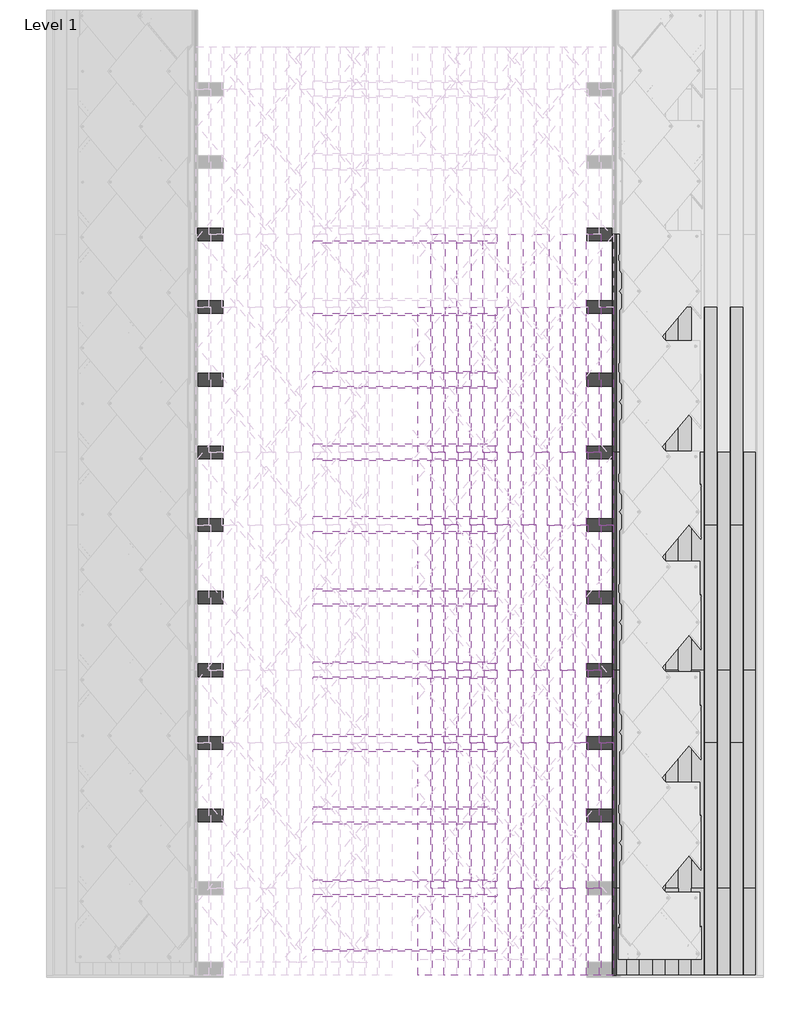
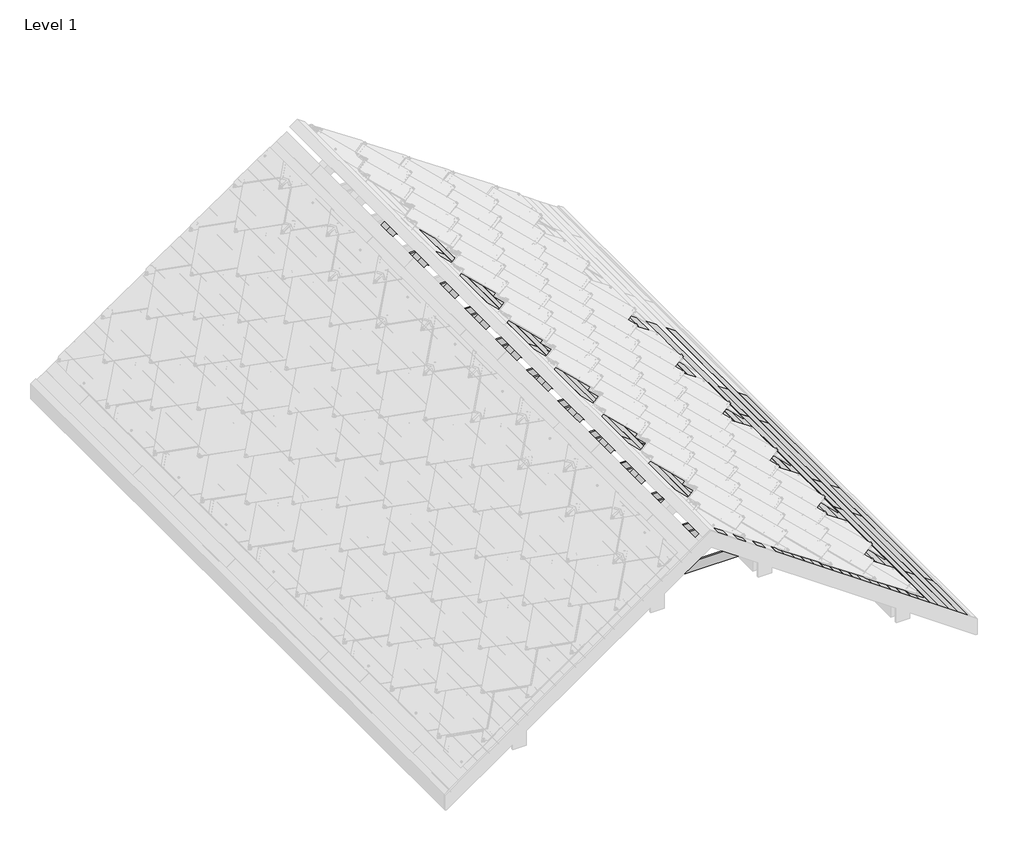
# One storey, part 2 of 6: 113 beams.
"""IFC4 building model written with IfcOpenShell, lengths in millimetres."""

import ifcopenshell
import ifcopenshell.guid

model = None  # the IFC model being written
_history = None  # IfcOwnerHistory: only IFC2X3 demands one
_inside = {}  # id of a spatial element -> (the spatial element, [elements in it])
_under = {}  # id of a project, library or spatial element -> (it, [spatial elements below it])
_declared = {}  # id of a project -> (the project, [libraries it declares])
_typed = {}  # id of a type object -> (the type object, [elements of that type])
_made_of = {}  # id of a material, layer set ... -> (it, [elements and type objects made of it])


def new_model(schema):
    """Start an empty IFC model of exactly this schema.

    Asked for "IFC4X3", IfcOpenShell would pick the latest addendum, in which some entities
    have other attributes; the version numbers below select the first issue.
    IFC2X3 requires an IfcOwnerHistory on every rooted entity: one is made here for all.
    """
    global model, _history
    if schema == "IFC4X3":
        model = ifcopenshell.file(schema_version=(4, 3, 0, 0))
    else:
        model = ifcopenshell.file(schema=schema)
    _inside.clear()
    _under.clear()
    _declared.clear()
    _typed.clear()
    _made_of.clear()
    _history = None
    if model.schema == "IFC2X3":
        org = make("IfcOrganization", Name="unknown")
        user = make(
            "IfcPersonAndOrganization",
            ThePerson=make("IfcPerson", FamilyName="unknown"),
            TheOrganization=org,
        )
        app = make(
            "IfcApplication",
            ApplicationDeveloper=org,
            Version="unknown",
            ApplicationFullName="unknown",
            ApplicationIdentifier="unknown",
        )
        _history = make(
            "IfcOwnerHistory",
            OwningUser=user,
            OwningApplication=app,
            ChangeAction="ADDED",
            CreationDate=0,
        )
    return model


def make(cls, **values):
    """One entity of the class cls with the attributes given. An attribute that is None is left unset."""
    return model.create_entity(
        cls, **{name: value for name, value in values.items() if value is not None}
    )


def rooted(cls, **values):
    """An entity with a GlobalId (a new one), such as an element, a storey or a relation."""
    return make(cls, GlobalId=ifcopenshell.guid.new(), OwnerHistory=_history, **values)


def si_unit(unit_type, name, prefix=None):
    """IfcSIUnit, for example si_unit("LENGTHUNIT", "METRE", prefix="MILLI")."""
    return make("IfcSIUnit", UnitType=unit_type, Prefix=prefix, Name=name)


def assignment(units):
    """IfcUnitAssignment: the units of a project."""
    return None if units is None else make("IfcUnitAssignment", Units=units)


def point(xyz):
    """IfcCartesianPoint."""
    return None if xyz is None else make("IfcCartesianPoint", Coordinates=xyz)


def direction(xyz):
    """IfcDirection."""
    return None if xyz is None else make("IfcDirection", DirectionRatios=xyz)


def frame(location, z_axis=None, x_axis=None):
    """IfcAxis2Placement3D, a coordinate frame: its origin and axes. An axis left out is left unset."""
    return make(
        "IfcAxis2Placement3D",
        Location=point(location),
        Axis=direction(z_axis),
        RefDirection=direction(x_axis),
    )


def origin():
    """The frame at (0, 0, 0) with its axes left unset."""
    return frame((0.0, 0.0, 0.0))


def place(relative_to, where):
    """IfcLocalPlacement: puts the frame where relative to a parent placement (None: the world)."""
    return make(
        "IfcLocalPlacement", PlacementRelTo=relative_to, RelativePlacement=where
    )


def context(
    kind, dimensions, precision=None, world=None, true_north=None, identifier=None
):
    """IfcGeometricRepresentationContext, for example the 3D "Model" context."""
    return make(
        "IfcGeometricRepresentationContext",
        ContextIdentifier=identifier,
        ContextType=kind,
        CoordinateSpaceDimension=dimensions,
        Precision=precision,
        WorldCoordinateSystem=world,
        TrueNorth=true_north,
    )


def project(units=None, contexts=None):
    """IfcProject with its units and contexts."""
    return rooted(
        "IfcProject",
        Name="project",
        RepresentationContexts=contexts,
        UnitsInContext=assignment(units),
    )


def spatial(cls, under=None, at=None, **own):
    """A site, building, storey or space (cls), placed at a placement, below another one or the project."""
    s = rooted(cls, ObjectPlacement=at, **own)
    if under is not None:
        _under.setdefault(under.id(), (under, []))[1].append(s)
    return s


def polyline(points):
    """IfcPolyline through the points."""
    return make("IfcPolyline", Points=[point(p) for p in points])


def outline(outer, holes=None, kind="AREA"):
    """IfcArbitraryClosedProfileDef: a profile drawn as a closed curve; with holes, ...WithVoids."""
    if holes is None:
        return make("IfcArbitraryClosedProfileDef", ProfileType=kind, OuterCurve=outer)
    return make(
        "IfcArbitraryProfileDefWithVoids",
        ProfileType=kind,
        OuterCurve=outer,
        InnerCurves=holes,
    )


def extrude(swept, where, along, depth):
    """IfcExtrudedAreaSolid: the profile swept, set in the frame where, extruded along a direction by depth."""
    return make(
        "IfcExtrudedAreaSolid",
        SweptArea=swept,
        Position=where,
        ExtrudedDirection=direction(along),
        Depth=depth,
    )


def shape(context_of_items, identifier, shape_type, items):
    """IfcShapeRepresentation: the items that make up one representation, for example the "Body"."""
    return make(
        "IfcShapeRepresentation",
        ContextOfItems=context_of_items,
        RepresentationIdentifier=identifier,
        RepresentationType=shape_type,
        Items=items,
    )


def source(mapping_origin, context_of_items, identifier, shape_type, items):
    """IfcRepresentationMap: a shape defined once, which mapped items show again and again."""
    return make(
        "IfcRepresentationMap",
        MappingOrigin=mapping_origin,
        MappedRepresentation=shape(context_of_items, identifier, shape_type, items),
    )


def transform(
    local_origin,
    x_axis=None,
    y_axis=None,
    z_axis=None,
    scale=None,
    scale2=None,
    scale3=None,
    uniform=True,
):
    """IfcCartesianTransformationOperator3D, or its non-uniform kind. x_axis, y_axis, z_axis: its Axis1, 2, 3."""
    if uniform:
        return make(
            "IfcCartesianTransformationOperator3D",
            Axis1=direction(x_axis),
            Axis2=direction(y_axis),
            LocalOrigin=point(local_origin),
            Scale=scale,
            Axis3=direction(z_axis),
        )
    return make(
        "IfcCartesianTransformationOperator3DnonUniform",
        Axis1=direction(x_axis),
        Axis2=direction(y_axis),
        LocalOrigin=point(local_origin),
        Scale=scale,
        Axis3=direction(z_axis),
        Scale2=scale2,
        Scale3=scale3,
    )


def mapped(mapping_source, mapping_target):
    """IfcMappedItem: shows the shape of a source again, moved by a transform."""
    return make(
        "IfcMappedItem", MappingSource=mapping_source, MappingTarget=mapping_target
    )


def made_of(thing, what):
    """Note that an element or type object is made of a material, layer set ...; save() writes the relation."""
    if what is not None:
        _made_of.setdefault(what.id(), (what, []))[1].append(thing)
    return thing


def element(
    cls,
    number,
    at=None,
    inside=None,
    cuts=None,
    type_object=None,
    material=None,
    context=None,
    identifier="Body",
    shape_type=None,
    held_by="IfcProductDefinitionShape",
    body=None,
    shapes=None,
    **own,
):
    """One element of the class cls, such as IfcWall. Its Tag is "e" and its number.

    at: its placement. inside: the storey or other place that contains it. cuts: it is an
    opening in that element (IfcRelVoidsElement). A single representation is given by context,
    identifier, shape_type and body (its items); several are given by shapes. held_by: the class
    of the entity that holds the representations. save() writes the other relations.
    """
    e = rooted(cls, Tag="e%d" % number, ObjectPlacement=at, **own)
    if body is not None:
        shapes = [shape(context, identifier, shape_type, body)]
    if shapes is not None:
        e.Representation = make(held_by, Representations=shapes)
    if inside is not None:
        _inside.setdefault(inside.id(), (inside, []))[1].append(e)
    if cuts is not None:
        rooted(
            "IfcRelVoidsElement", RelatingBuildingElement=cuts, RelatedOpeningElement=e
        )
    if type_object is not None:
        _typed.setdefault(type_object.id(), (type_object, []))[1].append(e)
    return made_of(e, material)


def aggregate(whole, parts):
    """IfcRelAggregates: a whole, such as a stair, and the parts it consists of."""
    return rooted("IfcRelAggregates", RelatingObject=whole, RelatedObjects=parts)


def save(model, path):
    """Write the relations noted so far, then the file.

    IfcRelAggregates (storeys below a building ...), IfcRelContainedInSpatialStructure (elements
    in a storey), IfcRelDefinesByType, IfcRelAssociatesMaterial and IfcRelDeclares: one each for
    every whole, place, type object, material and project.
    """
    for whole, parts in _under.values():
        aggregate(whole, parts)
    for where, things in _inside.values():
        rooted(
            "IfcRelContainedInSpatialStructure",
            RelatedElements=things,
            RelatingStructure=where,
        )
    for kind, things in _typed.values():
        rooted("IfcRelDefinesByType", RelatedObjects=things, RelatingType=kind)
    for what, things in _made_of.values():
        rooted("IfcRelAssociatesMaterial", RelatedObjects=things, RelatingMaterial=what)
    for by, libraries in _declared.values():
        rooted("IfcRelDeclares", RelatingContext=by, RelatedDefinitions=libraries)
    model.write(path)


def structural_framing_1_structural_framing_1_4f4e03de(model_context):
    return source(origin(), model_context, "Body", "SweptSolid", [
        extrude(outline(polyline([(2800.0, 1206.7789073), (51.1319528, -2719.0115151), (-144.1919814, -2719.0115151), (542.0114061, -1739.0115151), (656.0155568, -1739.0115151), (656.0155568, -1576.1967145), (1975.9524969, 308.8685956), (2089.9566477, 308.8685956), (2089.9566477, 471.6833963), (2604.6760658, 1206.7789073), (2089.9566477, 1941.8744183), (2089.9566477, 2104.6892189), (1975.9524969, 2104.6892189), (656.0155568, 3989.754529), (656.0155568, 4152.5693297), (542.0114061, 4152.5693297), (-144.1919814, 5132.5693297), (51.1319528, 5132.5693297), (2800.0, 1206.7789073)])), frame((0.0, 3785.5508021, 0.0), z_axis=(0.0, 1.0, 0.0), x_axis=(0.0, 0.0, 1.0)), (0.0, 0.0, 1.0), 140.0),
    ])


def structural_framing_161_structural_framing_15_e03e88da(model_context):
    return source(origin(), model_context, "Body", "SweptSolid", [
        extrude(outline(polyline([(0.0, -174.3446795), (0.0, 0.0), (2400.0, 0.0), (2400.0, -174.3446795), (0.0, -174.3446795)])), frame((1349.5937079, 3995.5508021, 2700.0), z_axis=(0.5735764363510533, 0.0, 0.8191520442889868), x_axis=(0.0, -1.0, 0.0)), (0.0, 0.0, 1.0), 25.0),
    ])


def structural_framing_163_structural_framing_15_fd44f6a2(model_context):
    return source(origin(), model_context, "Body", "SweptSolid", [
        extrude(outline(polyline([(0.0, -174.3446795), (0.0, 0.0), (2558.4556079, 0.0), (2558.4556079, -174.3446795), (0.0, -174.3446795)])), frame((1349.5937079, 3995.5508021, 2700.0), z_axis=(0.5735764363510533, 0.0, 0.8191520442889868), x_axis=(0.0, -1.0, 0.0)), (0.0, 0.0, 1.0), 25.0),
    ])


def structural_framing_156_structural_framing_15_8572bb24(model_context):
    return source(origin(), model_context, "Body", "SweptSolid", [
        extrude(outline(polyline([(0.0, -174.3446795), (0.0, 0.0), (2400.0, 0.0), (2400.0, -174.3446795), (0.0, -174.3446795)])), frame((1349.5937079, 3925.5508021, 2700.0), z_axis=(0.5735764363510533, 0.0, 0.8191520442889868), x_axis=(0.0, -1.0, 0.0)), (0.0, 0.0, 1.0), 25.0),
    ])


def structural_framing_159_structural_framing_15_e730e61d(model_context):
    return source(origin(), model_context, "Body", "SweptSolid", [
        extrude(outline(polyline([(0.0, -174.3446795), (0.0, 0.0), (958.4556079, 0.0), (958.4556079, -174.3446795), (0.0, -174.3446795)])), frame((1349.5937079, 3925.5508021, 2700.0), z_axis=(0.5735764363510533, 0.0, 0.8191520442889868), x_axis=(0.0, -1.0, 0.0)), (0.0, 0.0, 1.0), 25.0),
    ])


def structural_framing_296_structural_framing_296_04115515(model_context):
    return source(origin(), model_context, "Body", "SweptSolid", [
        extrude(outline(polyline([(2089.9566477, 2220.8259056), (2239.9566477, 2006.6037045), (2239.9566477, 406.95411), (2089.9566477, 192.731909), (2089.9566477, 2220.8259056)])), frame((0.0, 3760.5508021, 0.0), z_axis=(0.0, 1.0, 0.0), x_axis=(0.0, 0.0, 1.0)), (0.0, 0.0, 1.0), 25.0),
    ])


def structural_framing_298_structural_framing_296_1c13a3da(model_context):
    return source(origin(), model_context, "Body", "SweptSolid", [
        extrude(outline(polyline([(2089.9566477, 2220.8259056), (2239.9566477, 2006.6037045), (2239.9566477, 406.95411), (2089.9566477, 192.731909), (2089.9566477, 2220.8259056)])), frame((0.0, 2325.5508021, 0.0), z_axis=(0.0, 1.0, 0.0), x_axis=(0.0, 0.0, 1.0)), (0.0, 0.0, 1.0), 25.0),
    ])


model = new_model("IFC4")

# Units and contexts
model_context = context("Model", 3, world=origin())
ifc_project = project(units=[si_unit("LENGTHUNIT", "METRE", prefix="MILLI")], contexts=[model_context])

# Site, building, storey
site = spatial("IfcSite", under=ifc_project)
building = spatial("IfcBuilding", under=site)
storey = spatial("IfcBuildingStorey", under=building, Name="Level 1", Elevation=0.0)

# Beams
placement = place(None, origin())
structural_framing_1_structural_framing_1_shape = structural_framing_1_structural_framing_1_4f4e03de(model_context)
element("IfcBeam", 1, ObjectType="Structural Framing 10 : Structural Framing 1", at=placement, inside=storey, context=model_context, shape_type="MappedRepresentation", body=[
    mapped(structural_framing_1_structural_framing_1_shape, transform((0.0, -7200.0, 0.0), x_axis=(1.0, 0.0, 0.0), y_axis=(0.0, 1.0, 0.0), z_axis=(0.0, 0.0, 1.0))),
])
element("IfcBeam", 2, ObjectType="Structural Framing 11 : Structural Framing 1", at=placement, inside=storey, context=model_context, shape_type="MappedRepresentation", body=[
    mapped(structural_framing_1_structural_framing_1_shape, transform((0.0, -8000.0, 0.0), x_axis=(1.0, 0.0, 0.0), y_axis=(0.0, 1.0, 0.0), z_axis=(0.0, 0.0, 1.0))),
])
element("IfcBeam", 3, ObjectType="Structural Framing 12 : Structural Framing 1", at=placement, inside=storey, context=model_context, shape_type="MappedRepresentation", body=[
    mapped(structural_framing_1_structural_framing_1_shape, transform((0.0, -8800.0, 0.0), x_axis=(1.0, 0.0, 0.0), y_axis=(0.0, 1.0, 0.0), z_axis=(0.0, 0.0, 1.0))),
])
structural_framing_161_structural_framing_15_shape = structural_framing_161_structural_framing_15_e03e88da(model_context)
element("IfcBeam", 4, ObjectType="Structural Framing 161 : Structural Framing 15", at=placement, inside=storey, context=model_context, shape_type="MappedRepresentation", body=[
    mapped(structural_framing_161_structural_framing_15_shape, transform((142.8148007, -3340.0, -100.0), x_axis=(1.0, 0.0, 0.0), y_axis=(0.0, 1.0, 0.0), z_axis=(0.0, 0.0, 1.0))),
])
element("IfcBeam", 5, ObjectType="Structural Framing 162 : Structural Framing 15", at=placement, inside=storey, context=model_context, shape_type="MappedRepresentation", body=[
    mapped(structural_framing_161_structural_framing_15_shape, transform((142.8148007, -5740.0, -100.0), x_axis=(1.0, 0.0, 0.0), y_axis=(0.0, 1.0, 0.0), z_axis=(0.0, 0.0, 1.0))),
])
structural_framing_163_structural_framing_15_shape = structural_framing_163_structural_framing_15_fd44f6a2(model_context)
element("IfcBeam", 6, ObjectType="Structural Framing 163 : Structural Framing 15", at=placement, inside=storey, context=model_context, shape_type="MappedRepresentation", body=[
    mapped(structural_framing_163_structural_framing_15_shape, transform((142.8148007, -8140.0, -100.0), x_axis=(1.0, 0.0, 0.0), y_axis=(0.0, 1.0, 0.0), z_axis=(0.0, 0.0, 1.0))),
])
structural_framing_156_structural_framing_15_shape = structural_framing_156_structural_framing_15_8572bb24(model_context)
element("IfcBeam", 7, ObjectType="Structural Framing 166 : Structural Framing 15", at=placement, inside=storey, context=model_context, shape_type="MappedRepresentation", body=[
    mapped(structural_framing_156_structural_framing_15_shape, transform((285.6296013, -2470.0, -200.0), x_axis=(1.0, 0.0, 0.0), y_axis=(0.0, 1.0, 0.0), z_axis=(0.0, 0.0, 1.0))),
])
element("IfcBeam", 8, ObjectType="Structural Framing 167 : Structural Framing 15", at=placement, inside=storey, context=model_context, shape_type="MappedRepresentation", body=[
    mapped(structural_framing_156_structural_framing_15_shape, transform((285.6296013, -4870.0, -200.0), x_axis=(1.0, 0.0, 0.0), y_axis=(0.0, 1.0, 0.0), z_axis=(0.0, 0.0, 1.0))),
])
element("IfcBeam", 9, ObjectType="Structural Framing 168 : Structural Framing 15", at=placement, inside=storey, context=model_context, shape_type="MappedRepresentation", body=[
    mapped(structural_framing_156_structural_framing_15_shape, transform((285.6296013, -7270.0, -200.0), x_axis=(1.0, 0.0, 0.0), y_axis=(0.0, 1.0, 0.0), z_axis=(0.0, 0.0, 1.0))),
])
element("IfcBeam", 10, ObjectType="Structural Framing 171 : Structural Framing 15", at=placement, inside=storey, context=model_context, shape_type="MappedRepresentation", body=[
    mapped(structural_framing_161_structural_framing_15_shape, transform((428.444402, -3340.0, -300.0), x_axis=(1.0, 0.0, 0.0), y_axis=(0.0, 1.0, 0.0), z_axis=(0.0, 0.0, 1.0))),
])
element("IfcBeam", 11, ObjectType="Structural Framing 172 : Structural Framing 15", at=placement, inside=storey, context=model_context, shape_type="MappedRepresentation", body=[
    mapped(structural_framing_161_structural_framing_15_shape, transform((428.444402, -5740.0, -300.0), x_axis=(1.0, 0.0, 0.0), y_axis=(0.0, 1.0, 0.0), z_axis=(0.0, 0.0, 1.0))),
])
element("IfcBeam", 12, ObjectType="Structural Framing 173 : Structural Framing 15", at=placement, inside=storey, context=model_context, shape_type="MappedRepresentation", body=[
    mapped(structural_framing_163_structural_framing_15_shape, transform((428.444402, -8140.0, -300.0), x_axis=(1.0, 0.0, 0.0), y_axis=(0.0, 1.0, 0.0), z_axis=(0.0, 0.0, 1.0))),
])
element("IfcBeam", 13, ObjectType="Structural Framing 176 : Structural Framing 15", at=placement, inside=storey, context=model_context, shape_type="MappedRepresentation", body=[
    mapped(structural_framing_156_structural_framing_15_shape, transform((571.2592027, -2470.0, -400.0), x_axis=(1.0, 0.0, 0.0), y_axis=(0.0, 1.0, 0.0), z_axis=(0.0, 0.0, 1.0))),
])
element("IfcBeam", 14, ObjectType="Structural Framing 177 : Structural Framing 15", at=placement, inside=storey, context=model_context, shape_type="MappedRepresentation", body=[
    mapped(structural_framing_156_structural_framing_15_shape, transform((571.2592027, -4870.0, -400.0), x_axis=(1.0, 0.0, 0.0), y_axis=(0.0, 1.0, 0.0), z_axis=(0.0, 0.0, 1.0))),
])
element("IfcBeam", 15, ObjectType="Structural Framing 178 : Structural Framing 15", at=placement, inside=storey, context=model_context, shape_type="MappedRepresentation", body=[
    mapped(structural_framing_156_structural_framing_15_shape, transform((571.2592027, -7270.0, -400.0), x_axis=(1.0, 0.0, 0.0), y_axis=(0.0, 1.0, 0.0), z_axis=(0.0, 0.0, 1.0))),
])
element("IfcBeam", 16, ObjectType="Structural Framing 181 : Structural Framing 15", at=placement, inside=storey, context=model_context, shape_type="MappedRepresentation", body=[
    mapped(structural_framing_161_structural_framing_15_shape, transform((714.0740034, -3340.0, -500.0), x_axis=(1.0, 0.0, 0.0), y_axis=(0.0, 1.0, 0.0), z_axis=(0.0, 0.0, 1.0))),
])
element("IfcBeam", 17, ObjectType="Structural Framing 182 : Structural Framing 15", at=placement, inside=storey, context=model_context, shape_type="MappedRepresentation", body=[
    mapped(structural_framing_161_structural_framing_15_shape, transform((714.0740034, -5740.0, -500.0), x_axis=(1.0, 0.0, 0.0), y_axis=(0.0, 1.0, 0.0), z_axis=(0.0, 0.0, 1.0))),
])
element("IfcBeam", 18, ObjectType="Structural Framing 183 : Structural Framing 15", at=placement, inside=storey, context=model_context, shape_type="MappedRepresentation", body=[
    mapped(structural_framing_163_structural_framing_15_shape, transform((714.0740034, -8140.0, -500.0), x_axis=(1.0, 0.0, 0.0), y_axis=(0.0, 1.0, 0.0), z_axis=(0.0, 0.0, 1.0))),
])
element("IfcBeam", 19, ObjectType="Structural Framing 186 : Structural Framing 15", at=placement, inside=storey, context=model_context, shape_type="MappedRepresentation", body=[
    mapped(structural_framing_156_structural_framing_15_shape, transform((856.888804, -2470.0, -600.0), x_axis=(1.0, 0.0, 0.0), y_axis=(0.0, 1.0, 0.0), z_axis=(0.0, 0.0, 1.0))),
])
element("IfcBeam", 20, ObjectType="Structural Framing 187 : Structural Framing 15", at=placement, inside=storey, context=model_context, shape_type="MappedRepresentation", body=[
    mapped(structural_framing_156_structural_framing_15_shape, transform((856.888804, -4870.0, -600.0), x_axis=(1.0, 0.0, 0.0), y_axis=(0.0, 1.0, 0.0), z_axis=(0.0, 0.0, 1.0))),
])
element("IfcBeam", 21, ObjectType="Structural Framing 188 : Structural Framing 15", at=placement, inside=storey, context=model_context, shape_type="MappedRepresentation", body=[
    mapped(structural_framing_156_structural_framing_15_shape, transform((856.888804, -7270.0, -600.0), x_axis=(1.0, 0.0, 0.0), y_axis=(0.0, 1.0, 0.0), z_axis=(0.0, 0.0, 1.0))),
])
element("IfcBeam", 22, ObjectType="Structural Framing 191 : Structural Framing 15", at=placement, inside=storey, context=model_context, shape_type="MappedRepresentation", body=[
    mapped(structural_framing_161_structural_framing_15_shape, transform((999.7036047, -3340.0, -700.0), x_axis=(1.0, 0.0, 0.0), y_axis=(0.0, 1.0, 0.0), z_axis=(0.0, 0.0, 1.0))),
])
element("IfcBeam", 23, ObjectType="Structural Framing 192 : Structural Framing 15", at=placement, inside=storey, context=model_context, shape_type="MappedRepresentation", body=[
    mapped(structural_framing_161_structural_framing_15_shape, transform((999.7036047, -5740.0, -700.0), x_axis=(1.0, 0.0, 0.0), y_axis=(0.0, 1.0, 0.0), z_axis=(0.0, 0.0, 1.0))),
])
element("IfcBeam", 24, ObjectType="Structural Framing 193 : Structural Framing 15", at=placement, inside=storey, context=model_context, shape_type="MappedRepresentation", body=[
    mapped(structural_framing_163_structural_framing_15_shape, transform((999.7036047, -8140.0, -700.0), x_axis=(1.0, 0.0, 0.0), y_axis=(0.0, 1.0, 0.0), z_axis=(0.0, 0.0, 1.0))),
])
element("IfcBeam", 25, ObjectType="Structural Framing 196 : Structural Framing 15", at=placement, inside=storey, context=model_context, shape_type="MappedRepresentation", body=[
    mapped(structural_framing_156_structural_framing_15_shape, transform((1142.5184054, -2470.0, -800.0), x_axis=(1.0, 0.0, 0.0), y_axis=(0.0, 1.0, 0.0), z_axis=(0.0, 0.0, 1.0))),
])
element("IfcBeam", 26, ObjectType="Structural Framing 197 : Structural Framing 15", at=placement, inside=storey, context=model_context, shape_type="MappedRepresentation", body=[
    mapped(structural_framing_156_structural_framing_15_shape, transform((1142.5184054, -4870.0, -800.0), x_axis=(1.0, 0.0, 0.0), y_axis=(0.0, 1.0, 0.0), z_axis=(0.0, 0.0, 1.0))),
])
element("IfcBeam", 27, ObjectType="Structural Framing 198 : Structural Framing 15", at=placement, inside=storey, context=model_context, shape_type="MappedRepresentation", body=[
    mapped(structural_framing_156_structural_framing_15_shape, transform((1142.5184054, -7270.0, -800.0), x_axis=(1.0, 0.0, 0.0), y_axis=(0.0, 1.0, 0.0), z_axis=(0.0, 0.0, 1.0))),
])
structural_framing_159_structural_framing_15_shape = structural_framing_159_structural_framing_15_e730e61d(model_context)
element("IfcBeam", 28, ObjectType="Structural Framing 199 : Structural Framing 15", at=placement, inside=storey, context=model_context, shape_type="MappedRepresentation", body=[
    mapped(structural_framing_159_structural_framing_15_shape, transform((1142.5184054, -9670.0, -800.0), x_axis=(1.0, 0.0, 0.0), y_axis=(0.0, 1.0, 0.0), z_axis=(0.0, 0.0, 1.0))),
])
element("IfcBeam", 29, ObjectType="Structural Framing 201 : Structural Framing 15", at=placement, inside=storey, context=model_context, shape_type="MappedRepresentation", body=[
    mapped(structural_framing_161_structural_framing_15_shape, transform((1285.3332061, -3340.0, -900.0), x_axis=(1.0, 0.0, 0.0), y_axis=(0.0, 1.0, 0.0), z_axis=(0.0, 0.0, 1.0))),
])
element("IfcBeam", 30, ObjectType="Structural Framing 202 : Structural Framing 15", at=placement, inside=storey, context=model_context, shape_type="MappedRepresentation", body=[
    mapped(structural_framing_161_structural_framing_15_shape, transform((1285.3332061, -5740.0, -900.0), x_axis=(1.0, 0.0, 0.0), y_axis=(0.0, 1.0, 0.0), z_axis=(0.0, 0.0, 1.0))),
])
element("IfcBeam", 31, ObjectType="Structural Framing 203 : Structural Framing 15", at=placement, inside=storey, context=model_context, shape_type="MappedRepresentation", body=[
    mapped(structural_framing_163_structural_framing_15_shape, transform((1285.3332061, -8140.0, -900.0), x_axis=(1.0, 0.0, 0.0), y_axis=(0.0, 1.0, 0.0), z_axis=(0.0, 0.0, 1.0))),
])
element("IfcBeam", 32, ObjectType="Structural Framing 206 : Structural Framing 15", at=placement, inside=storey, context=model_context, shape_type="MappedRepresentation", body=[
    mapped(structural_framing_156_structural_framing_15_shape, transform((1428.1480067, -2470.0, -1000.0), x_axis=(1.0, 0.0, 0.0), y_axis=(0.0, 1.0, 0.0), z_axis=(0.0, 0.0, 1.0))),
])
element("IfcBeam", 33, ObjectType="Structural Framing 207 : Structural Framing 15", at=placement, inside=storey, context=model_context, shape_type="MappedRepresentation", body=[
    mapped(structural_framing_156_structural_framing_15_shape, transform((1428.1480067, -4870.0, -1000.0), x_axis=(1.0, 0.0, 0.0), y_axis=(0.0, 1.0, 0.0), z_axis=(0.0, 0.0, 1.0))),
])
element("IfcBeam", 34, ObjectType="Structural Framing 208 : Structural Framing 15", at=placement, inside=storey, context=model_context, shape_type="MappedRepresentation", body=[
    mapped(structural_framing_156_structural_framing_15_shape, transform((1428.1480067, -7270.0, -1000.0), x_axis=(1.0, 0.0, 0.0), y_axis=(0.0, 1.0, 0.0), z_axis=(0.0, 0.0, 1.0))),
])
element("IfcBeam", 35, ObjectType="Structural Framing 209 : Structural Framing 15", at=placement, inside=storey, context=model_context, shape_type="MappedRepresentation", body=[
    mapped(structural_framing_159_structural_framing_15_shape, transform((1428.1480067, -9670.0, -1000.0), x_axis=(1.0, 0.0, 0.0), y_axis=(0.0, 1.0, 0.0), z_axis=(0.0, 0.0, 1.0))),
])
element("IfcBeam", 36, ObjectType="Structural Framing 211 : Structural Framing 15", at=placement, inside=storey, context=model_context, shape_type="MappedRepresentation", body=[
    mapped(structural_framing_161_structural_framing_15_shape, transform((1570.9628074, -3340.0, -1100.0), x_axis=(1.0, 0.0, 0.0), y_axis=(0.0, 1.0, 0.0), z_axis=(0.0, 0.0, 1.0))),
])
element("IfcBeam", 37, ObjectType="Structural Framing 212 : Structural Framing 15", at=placement, inside=storey, context=model_context, shape_type="MappedRepresentation", body=[
    mapped(structural_framing_161_structural_framing_15_shape, transform((1570.9628074, -5740.0, -1100.0), x_axis=(1.0, 0.0, 0.0), y_axis=(0.0, 1.0, 0.0), z_axis=(0.0, 0.0, 1.0))),
])
element("IfcBeam", 38, ObjectType="Structural Framing 213 : Structural Framing 15", at=placement, inside=storey, context=model_context, shape_type="MappedRepresentation", body=[
    mapped(structural_framing_163_structural_framing_15_shape, transform((1570.9628074, -8140.0, -1100.0), x_axis=(1.0, 0.0, 0.0), y_axis=(0.0, 1.0, 0.0), z_axis=(0.0, 0.0, 1.0))),
])
element("IfcBeam", 39, ObjectType="Structural Framing 216 : Structural Framing 15", at=placement, inside=storey, context=model_context, shape_type="MappedRepresentation", body=[
    mapped(structural_framing_156_structural_framing_15_shape, transform((1713.7776081, -2470.0, -1200.0), x_axis=(1.0, 0.0, 0.0), y_axis=(0.0, 1.0, 0.0), z_axis=(0.0, 0.0, 1.0))),
])
element("IfcBeam", 40, ObjectType="Structural Framing 217 : Structural Framing 15", at=placement, inside=storey, context=model_context, shape_type="MappedRepresentation", body=[
    mapped(structural_framing_156_structural_framing_15_shape, transform((1713.7776081, -4870.0, -1200.0), x_axis=(1.0, 0.0, 0.0), y_axis=(0.0, 1.0, 0.0), z_axis=(0.0, 0.0, 1.0))),
])
element("IfcBeam", 41, ObjectType="Structural Framing 218 : Structural Framing 15", at=placement, inside=storey, context=model_context, shape_type="MappedRepresentation", body=[
    mapped(structural_framing_156_structural_framing_15_shape, transform((1713.7776081, -7270.0, -1200.0), x_axis=(1.0, 0.0, 0.0), y_axis=(0.0, 1.0, 0.0), z_axis=(0.0, 0.0, 1.0))),
])
element("IfcBeam", 42, ObjectType="Structural Framing 219 : Structural Framing 15", at=placement, inside=storey, context=model_context, shape_type="MappedRepresentation", body=[
    mapped(structural_framing_159_structural_framing_15_shape, transform((1713.7776081, -9670.0, -1200.0), x_axis=(1.0, 0.0, 0.0), y_axis=(0.0, 1.0, 0.0), z_axis=(0.0, 0.0, 1.0))),
])
element("IfcBeam", 43, ObjectType="Structural Framing 221 : Structural Framing 15", at=placement, inside=storey, context=model_context, shape_type="MappedRepresentation", body=[
    mapped(structural_framing_161_structural_framing_15_shape, transform((1856.5924088, -3340.0, -1300.0), x_axis=(1.0, 0.0, 0.0), y_axis=(0.0, 1.0, 0.0), z_axis=(0.0, 0.0, 1.0))),
])
element("IfcBeam", 44, ObjectType="Structural Framing 222 : Structural Framing 15", at=placement, inside=storey, context=model_context, shape_type="MappedRepresentation", body=[
    mapped(structural_framing_161_structural_framing_15_shape, transform((1856.5924088, -5740.0, -1300.0), x_axis=(1.0, 0.0, 0.0), y_axis=(0.0, 1.0, 0.0), z_axis=(0.0, 0.0, 1.0))),
])
element("IfcBeam", 45, ObjectType="Structural Framing 223 : Structural Framing 15", at=placement, inside=storey, context=model_context, shape_type="MappedRepresentation", body=[
    mapped(structural_framing_163_structural_framing_15_shape, transform((1856.5924088, -8140.0, -1300.0), x_axis=(1.0, 0.0, 0.0), y_axis=(0.0, 1.0, 0.0), z_axis=(0.0, 0.0, 1.0))),
])
element("IfcBeam", 46, ObjectType="Structural Framing 226 : Structural Framing 15", at=placement, inside=storey, context=model_context, shape_type="MappedRepresentation", body=[
    mapped(structural_framing_156_structural_framing_15_shape, transform((1999.4072094, -2470.0, -1400.0), x_axis=(1.0, 0.0, 0.0), y_axis=(0.0, 1.0, 0.0), z_axis=(0.0, 0.0, 1.0))),
])
element("IfcBeam", 47, ObjectType="Structural Framing 227 : Structural Framing 15", at=placement, inside=storey, context=model_context, shape_type="MappedRepresentation", body=[
    mapped(structural_framing_156_structural_framing_15_shape, transform((1999.4072094, -4870.0, -1400.0), x_axis=(1.0, 0.0, 0.0), y_axis=(0.0, 1.0, 0.0), z_axis=(0.0, 0.0, 1.0))),
])
element("IfcBeam", 48, ObjectType="Structural Framing 228 : Structural Framing 15", at=placement, inside=storey, context=model_context, shape_type="MappedRepresentation", body=[
    mapped(structural_framing_156_structural_framing_15_shape, transform((1999.4072094, -7270.0, -1400.0), x_axis=(1.0, 0.0, 0.0), y_axis=(0.0, 1.0, 0.0), z_axis=(0.0, 0.0, 1.0))),
])
element("IfcBeam", 49, ObjectType="Structural Framing 229 : Structural Framing 15", at=placement, inside=storey, context=model_context, shape_type="MappedRepresentation", body=[
    mapped(structural_framing_159_structural_framing_15_shape, transform((1999.4072094, -9670.0, -1400.0), x_axis=(1.0, 0.0, 0.0), y_axis=(0.0, 1.0, 0.0), z_axis=(0.0, 0.0, 1.0))),
])
element("IfcBeam", 50, ObjectType="Structural Framing 231 : Structural Framing 15", at=placement, inside=storey, context=model_context, shape_type="MappedRepresentation", body=[
    mapped(structural_framing_161_structural_framing_15_shape, transform((2142.2220101, -3340.0, -1500.0), x_axis=(1.0, 0.0, 0.0), y_axis=(0.0, 1.0, 0.0), z_axis=(0.0, 0.0, 1.0))),
])
element("IfcBeam", 51, ObjectType="Structural Framing 232 : Structural Framing 15", at=placement, inside=storey, context=model_context, shape_type="MappedRepresentation", body=[
    mapped(structural_framing_161_structural_framing_15_shape, transform((2142.2220101, -5740.0, -1500.0), x_axis=(1.0, 0.0, 0.0), y_axis=(0.0, 1.0, 0.0), z_axis=(0.0, 0.0, 1.0))),
])
element("IfcBeam", 52, ObjectType="Structural Framing 233 : Structural Framing 15", at=placement, inside=storey, context=model_context, shape_type="MappedRepresentation", body=[
    mapped(structural_framing_163_structural_framing_15_shape, transform((2142.2220101, -8140.0, -1500.0), x_axis=(1.0, 0.0, 0.0), y_axis=(0.0, 1.0, 0.0), z_axis=(0.0, 0.0, 1.0))),
])
element("IfcBeam", 53, ObjectType="Structural Framing 236 : Structural Framing 15", at=placement, inside=storey, context=model_context, shape_type="MappedRepresentation", body=[
    mapped(structural_framing_156_structural_framing_15_shape, transform((2285.0368108, -2470.0, -1600.0), x_axis=(1.0, 0.0, 0.0), y_axis=(0.0, 1.0, 0.0), z_axis=(0.0, 0.0, 1.0))),
])
element("IfcBeam", 54, ObjectType="Structural Framing 237 : Structural Framing 15", at=placement, inside=storey, context=model_context, shape_type="MappedRepresentation", body=[
    mapped(structural_framing_156_structural_framing_15_shape, transform((2285.0368108, -4870.0, -1600.0), x_axis=(1.0, 0.0, 0.0), y_axis=(0.0, 1.0, 0.0), z_axis=(0.0, 0.0, 1.0))),
])
element("IfcBeam", 55, ObjectType="Structural Framing 238 : Structural Framing 15", at=placement, inside=storey, context=model_context, shape_type="MappedRepresentation", body=[
    mapped(structural_framing_156_structural_framing_15_shape, transform((2285.0368108, -7270.0, -1600.0), x_axis=(1.0, 0.0, 0.0), y_axis=(0.0, 1.0, 0.0), z_axis=(0.0, 0.0, 1.0))),
])
element("IfcBeam", 56, ObjectType="Structural Framing 239 : Structural Framing 15", at=placement, inside=storey, context=model_context, shape_type="MappedRepresentation", body=[
    mapped(structural_framing_159_structural_framing_15_shape, transform((2285.0368108, -9670.0, -1600.0), x_axis=(1.0, 0.0, 0.0), y_axis=(0.0, 1.0, 0.0), z_axis=(0.0, 0.0, 1.0))),
])
element("IfcBeam", 57, ObjectType="Structural Framing 241 : Structural Framing 15", at=placement, inside=storey, context=model_context, shape_type="MappedRepresentation", body=[
    mapped(structural_framing_161_structural_framing_15_shape, transform((2427.8516115, -3340.0, -1700.0), x_axis=(1.0, 0.0, 0.0), y_axis=(0.0, 1.0, 0.0), z_axis=(0.0, 0.0, 1.0))),
])
element("IfcBeam", 58, ObjectType="Structural Framing 242 : Structural Framing 15", at=placement, inside=storey, context=model_context, shape_type="MappedRepresentation", body=[
    mapped(structural_framing_161_structural_framing_15_shape, transform((2427.8516115, -5740.0, -1700.0), x_axis=(1.0, 0.0, 0.0), y_axis=(0.0, 1.0, 0.0), z_axis=(0.0, 0.0, 1.0))),
])
element("IfcBeam", 59, ObjectType="Structural Framing 243 : Structural Framing 15", at=placement, inside=storey, context=model_context, shape_type="MappedRepresentation", body=[
    mapped(structural_framing_163_structural_framing_15_shape, transform((2427.8516115, -8140.0, -1700.0), x_axis=(1.0, 0.0, 0.0), y_axis=(0.0, 1.0, 0.0), z_axis=(0.0, 0.0, 1.0))),
])
element("IfcBeam", 60, ObjectType="Structural Framing 246 : Structural Framing 15", at=placement, inside=storey, context=model_context, shape_type="MappedRepresentation", body=[
    mapped(structural_framing_156_structural_framing_15_shape, transform((2570.6664121, -2470.0, -1800.0), x_axis=(1.0, 0.0, 0.0), y_axis=(0.0, 1.0, 0.0), z_axis=(0.0, 0.0, 1.0))),
])
element("IfcBeam", 61, ObjectType="Structural Framing 247 : Structural Framing 15", at=placement, inside=storey, context=model_context, shape_type="MappedRepresentation", body=[
    mapped(structural_framing_156_structural_framing_15_shape, transform((2570.6664121, -4870.0, -1800.0), x_axis=(1.0, 0.0, 0.0), y_axis=(0.0, 1.0, 0.0), z_axis=(0.0, 0.0, 1.0))),
])
element("IfcBeam", 62, ObjectType="Structural Framing 248 : Structural Framing 15", at=placement, inside=storey, context=model_context, shape_type="MappedRepresentation", body=[
    mapped(structural_framing_156_structural_framing_15_shape, transform((2570.6664121, -7270.0, -1800.0), x_axis=(1.0, 0.0, 0.0), y_axis=(0.0, 1.0, 0.0), z_axis=(0.0, 0.0, 1.0))),
])
element("IfcBeam", 63, ObjectType="Structural Framing 249 : Structural Framing 15", at=placement, inside=storey, context=model_context, shape_type="MappedRepresentation", body=[
    mapped(structural_framing_159_structural_framing_15_shape, transform((2570.6664121, -9670.0, -1800.0), x_axis=(1.0, 0.0, 0.0), y_axis=(0.0, 1.0, 0.0), z_axis=(0.0, 0.0, 1.0))),
])
element("IfcBeam", 64, ObjectType="Structural Framing 251 : Structural Framing 15", at=placement, inside=storey, context=model_context, shape_type="MappedRepresentation", body=[
    mapped(structural_framing_161_structural_framing_15_shape, transform((2713.4812128, -3340.0, -1900.0), x_axis=(1.0, 0.0, 0.0), y_axis=(0.0, 1.0, 0.0), z_axis=(0.0, 0.0, 1.0))),
])
element("IfcBeam", 65, ObjectType="Structural Framing 252 : Structural Framing 15", at=placement, inside=storey, context=model_context, shape_type="MappedRepresentation", body=[
    mapped(structural_framing_161_structural_framing_15_shape, transform((2713.4812128, -5740.0, -1900.0), x_axis=(1.0, 0.0, 0.0), y_axis=(0.0, 1.0, 0.0), z_axis=(0.0, 0.0, 1.0))),
])
element("IfcBeam", 66, ObjectType="Structural Framing 253 : Structural Framing 15", at=placement, inside=storey, context=model_context, shape_type="MappedRepresentation", body=[
    mapped(structural_framing_163_structural_framing_15_shape, transform((2713.4812128, -8140.0, -1900.0), x_axis=(1.0, 0.0, 0.0), y_axis=(0.0, 1.0, 0.0), z_axis=(0.0, 0.0, 1.0))),
])
element("IfcBeam", 67, ObjectType="Structural Framing 256 : Structural Framing 15", at=placement, inside=storey, context=model_context, shape_type="MappedRepresentation", body=[
    mapped(structural_framing_156_structural_framing_15_shape, transform((2856.2960135, -2470.0, -2000.0), x_axis=(1.0, 0.0, 0.0), y_axis=(0.0, 1.0, 0.0), z_axis=(0.0, 0.0, 1.0))),
])
element("IfcBeam", 68, ObjectType="Structural Framing 257 : Structural Framing 15", at=placement, inside=storey, context=model_context, shape_type="MappedRepresentation", body=[
    mapped(structural_framing_156_structural_framing_15_shape, transform((2856.2960135, -4870.0, -2000.0), x_axis=(1.0, 0.0, 0.0), y_axis=(0.0, 1.0, 0.0), z_axis=(0.0, 0.0, 1.0))),
])
element("IfcBeam", 69, ObjectType="Structural Framing 258 : Structural Framing 15", at=placement, inside=storey, context=model_context, shape_type="MappedRepresentation", body=[
    mapped(structural_framing_156_structural_framing_15_shape, transform((2856.2960135, -7270.0, -2000.0), x_axis=(1.0, 0.0, 0.0), y_axis=(0.0, 1.0, 0.0), z_axis=(0.0, 0.0, 1.0))),
])
element("IfcBeam", 70, ObjectType="Structural Framing 259 : Structural Framing 15", at=placement, inside=storey, context=model_context, shape_type="MappedRepresentation", body=[
    mapped(structural_framing_159_structural_framing_15_shape, transform((2856.2960135, -9670.0, -2000.0), x_axis=(1.0, 0.0, 0.0), y_axis=(0.0, 1.0, 0.0), z_axis=(0.0, 0.0, 1.0))),
])
element("IfcBeam", 71, ObjectType="Structural Framing 261 : Structural Framing 15", at=placement, inside=storey, context=model_context, shape_type="MappedRepresentation", body=[
    mapped(structural_framing_161_structural_framing_15_shape, transform((2999.1108142, -3340.0, -2100.0), x_axis=(1.0, 0.0, 0.0), y_axis=(0.0, 1.0, 0.0), z_axis=(0.0, 0.0, 1.0))),
])
element("IfcBeam", 72, ObjectType="Structural Framing 262 : Structural Framing 15", at=placement, inside=storey, context=model_context, shape_type="MappedRepresentation", body=[
    mapped(structural_framing_161_structural_framing_15_shape, transform((2999.1108142, -5740.0, -2100.0), x_axis=(1.0, 0.0, 0.0), y_axis=(0.0, 1.0, 0.0), z_axis=(0.0, 0.0, 1.0))),
])
element("IfcBeam", 73, ObjectType="Structural Framing 263 : Structural Framing 15", at=placement, inside=storey, context=model_context, shape_type="MappedRepresentation", body=[
    mapped(structural_framing_163_structural_framing_15_shape, transform((2999.1108142, -8140.0, -2100.0), x_axis=(1.0, 0.0, 0.0), y_axis=(0.0, 1.0, 0.0), z_axis=(0.0, 0.0, 1.0))),
])
element("IfcBeam", 74, ObjectType="Structural Framing 267 : Structural Framing 15", at=placement, inside=storey, context=model_context, shape_type="MappedRepresentation", body=[
    mapped(structural_framing_156_structural_framing_15_shape, transform((3141.9256148, -4870.0, -2200.0), x_axis=(1.0, 0.0, 0.0), y_axis=(0.0, 1.0, 0.0), z_axis=(0.0, 0.0, 1.0))),
])
element("IfcBeam", 75, ObjectType="Structural Framing 268 : Structural Framing 15", at=placement, inside=storey, context=model_context, shape_type="MappedRepresentation", body=[
    mapped(structural_framing_156_structural_framing_15_shape, transform((3141.9256148, -7270.0, -2200.0), x_axis=(1.0, 0.0, 0.0), y_axis=(0.0, 1.0, 0.0), z_axis=(0.0, 0.0, 1.0))),
])
element("IfcBeam", 76, ObjectType="Structural Framing 269 : Structural Framing 15", at=placement, inside=storey, context=model_context, shape_type="MappedRepresentation", body=[
    mapped(structural_framing_159_structural_framing_15_shape, transform((3141.9256148, -9670.0, -2200.0), x_axis=(1.0, 0.0, 0.0), y_axis=(0.0, 1.0, 0.0), z_axis=(0.0, 0.0, 1.0))),
])
element("IfcBeam", 77, ObjectType="Structural Framing 271 : Structural Framing 15", at=placement, inside=storey, context=model_context, shape_type="MappedRepresentation", body=[
    mapped(structural_framing_161_structural_framing_15_shape, transform((3284.7404155, -3340.0, -2300.0), x_axis=(1.0, 0.0, 0.0), y_axis=(0.0, 1.0, 0.0), z_axis=(0.0, 0.0, 1.0))),
])
element("IfcBeam", 78, ObjectType="Structural Framing 272 : Structural Framing 15", at=placement, inside=storey, context=model_context, shape_type="MappedRepresentation", body=[
    mapped(structural_framing_161_structural_framing_15_shape, transform((3284.7404155, -5740.0, -2300.0), x_axis=(1.0, 0.0, 0.0), y_axis=(0.0, 1.0, 0.0), z_axis=(0.0, 0.0, 1.0))),
])
element("IfcBeam", 79, ObjectType="Structural Framing 273 : Structural Framing 15", at=placement, inside=storey, context=model_context, shape_type="MappedRepresentation", body=[
    mapped(structural_framing_163_structural_framing_15_shape, transform((3284.7404155, -8140.0, -2300.0), x_axis=(1.0, 0.0, 0.0), y_axis=(0.0, 1.0, 0.0), z_axis=(0.0, 0.0, 1.0))),
])
element("IfcBeam", 80, ObjectType="Structural Framing 277 : Structural Framing 15", at=placement, inside=storey, context=model_context, shape_type="MappedRepresentation", body=[
    mapped(structural_framing_156_structural_framing_15_shape, transform((3427.5552162, -4870.0, -2400.0), x_axis=(1.0, 0.0, 0.0), y_axis=(0.0, 1.0, 0.0), z_axis=(0.0, 0.0, 1.0))),
])
element("IfcBeam", 81, ObjectType="Structural Framing 278 : Structural Framing 15", at=placement, inside=storey, context=model_context, shape_type="MappedRepresentation", body=[
    mapped(structural_framing_156_structural_framing_15_shape, transform((3427.5552162, -7270.0, -2400.0), x_axis=(1.0, 0.0, 0.0), y_axis=(0.0, 1.0, 0.0), z_axis=(0.0, 0.0, 1.0))),
])
element("IfcBeam", 82, ObjectType="Structural Framing 279 : Structural Framing 15", at=placement, inside=storey, context=model_context, shape_type="MappedRepresentation", body=[
    mapped(structural_framing_159_structural_framing_15_shape, transform((3427.5552162, -9670.0, -2400.0), x_axis=(1.0, 0.0, 0.0), y_axis=(0.0, 1.0, 0.0), z_axis=(0.0, 0.0, 1.0))),
])
element("IfcBeam", 83, ObjectType="Structural Framing 281 : Structural Framing 15", at=placement, inside=storey, context=model_context, shape_type="MappedRepresentation", body=[
    mapped(structural_framing_161_structural_framing_15_shape, transform((3570.3700169, -3340.0, -2500.0), x_axis=(1.0, 0.0, 0.0), y_axis=(0.0, 1.0, 0.0), z_axis=(0.0, 0.0, 1.0))),
])
element("IfcBeam", 84, ObjectType="Structural Framing 282 : Structural Framing 15", at=placement, inside=storey, context=model_context, shape_type="MappedRepresentation", body=[
    mapped(structural_framing_161_structural_framing_15_shape, transform((3570.3700169, -5740.0, -2500.0), x_axis=(1.0, 0.0, 0.0), y_axis=(0.0, 1.0, 0.0), z_axis=(0.0, 0.0, 1.0))),
])
element("IfcBeam", 85, ObjectType="Structural Framing 283 : Structural Framing 15", at=placement, inside=storey, context=model_context, shape_type="MappedRepresentation", body=[
    mapped(structural_framing_163_structural_framing_15_shape, transform((3570.3700169, -8140.0, -2500.0), x_axis=(1.0, 0.0, 0.0), y_axis=(0.0, 1.0, 0.0), z_axis=(0.0, 0.0, 1.0))),
])
element("IfcBeam", 86, ObjectType="Structural Framing 287 : Structural Framing 15", at=placement, inside=storey, context=model_context, shape_type="MappedRepresentation", body=[
    mapped(structural_framing_156_structural_framing_15_shape, transform((3713.1848175, -4870.0, -2600.0), x_axis=(1.0, 0.0, 0.0), y_axis=(0.0, 1.0, 0.0), z_axis=(0.0, 0.0, 1.0))),
])
element("IfcBeam", 87, ObjectType="Structural Framing 288 : Structural Framing 15", at=placement, inside=storey, context=model_context, shape_type="MappedRepresentation", body=[
    mapped(structural_framing_156_structural_framing_15_shape, transform((3713.1848175, -7270.0, -2600.0), x_axis=(1.0, 0.0, 0.0), y_axis=(0.0, 1.0, 0.0), z_axis=(0.0, 0.0, 1.0))),
])
element("IfcBeam", 88, ObjectType="Structural Framing 289 : Structural Framing 15", at=placement, inside=storey, context=model_context, shape_type="MappedRepresentation", body=[
    mapped(structural_framing_159_structural_framing_15_shape, transform((3713.1848175, -9670.0, -2600.0), x_axis=(1.0, 0.0, 0.0), y_axis=(0.0, 1.0, 0.0), z_axis=(0.0, 0.0, 1.0))),
])
structural_framing_296_structural_framing_296_shape = structural_framing_296_structural_framing_296_04115515(model_context)
element("IfcBeam", 89, ObjectType="Structural Framing 301 : Structural Framing 296", at=placement, inside=storey, context=model_context, shape_type="MappedRepresentation", body=[
    mapped(structural_framing_296_structural_framing_296_shape, transform((0.0, -2400.0, 0.0), x_axis=(1.0, 0.0, 0.0), y_axis=(0.0, 1.0, 0.0), z_axis=(0.0, 0.0, 1.0))),
])
element("IfcBeam", 90, ObjectType="Structural Framing 303 : Structural Framing 296", at=placement, inside=storey, context=model_context, shape_type="MappedRepresentation", body=[
    mapped(structural_framing_296_structural_framing_296_shape, transform((0.0, -3200.0, 0.0), x_axis=(1.0, 0.0, 0.0), y_axis=(0.0, 1.0, 0.0), z_axis=(0.0, 0.0, 1.0))),
])
element("IfcBeam", 91, ObjectType="Structural Framing 305 : Structural Framing 296", at=placement, inside=storey, context=model_context, shape_type="MappedRepresentation", body=[
    mapped(structural_framing_296_structural_framing_296_shape, transform((0.0, -4000.0, 0.0), x_axis=(1.0, 0.0, 0.0), y_axis=(0.0, 1.0, 0.0), z_axis=(0.0, 0.0, 1.0))),
])
structural_framing_298_structural_framing_296_shape = structural_framing_298_structural_framing_296_1c13a3da(model_context)
element("IfcBeam", 92, ObjectType="Structural Framing 306 : Structural Framing 296", at=placement, inside=storey, context=model_context, shape_type="MappedRepresentation", body=[
    mapped(structural_framing_298_structural_framing_296_shape, transform((0.0, -2400.0, 0.0), x_axis=(1.0, 0.0, 0.0), y_axis=(0.0, 1.0, 0.0), z_axis=(0.0, 0.0, 1.0))),
])
element("IfcBeam", 93, ObjectType="Structural Framing 307 : Structural Framing 296", at=placement, inside=storey, context=model_context, shape_type="MappedRepresentation", body=[
    mapped(structural_framing_296_structural_framing_296_shape, transform((0.0, -4800.0, 0.0), x_axis=(1.0, 0.0, 0.0), y_axis=(0.0, 1.0, 0.0), z_axis=(0.0, 0.0, 1.0))),
])
element("IfcBeam", 94, ObjectType="Structural Framing 308 : Structural Framing 296", at=placement, inside=storey, context=model_context, shape_type="MappedRepresentation", body=[
    mapped(structural_framing_298_structural_framing_296_shape, transform((0.0, -3200.0, 0.0), x_axis=(1.0, 0.0, 0.0), y_axis=(0.0, 1.0, 0.0), z_axis=(0.0, 0.0, 1.0))),
])
element("IfcBeam", 95, ObjectType="Structural Framing 309 : Structural Framing 296", at=placement, inside=storey, context=model_context, shape_type="MappedRepresentation", body=[
    mapped(structural_framing_296_structural_framing_296_shape, transform((0.0, -5600.0, 0.0), x_axis=(1.0, 0.0, 0.0), y_axis=(0.0, 1.0, 0.0), z_axis=(0.0, 0.0, 1.0))),
])
element("IfcBeam", 96, ObjectType="Structural Framing 310 : Structural Framing 296", at=placement, inside=storey, context=model_context, shape_type="MappedRepresentation", body=[
    mapped(structural_framing_298_structural_framing_296_shape, transform((0.0, -4000.0, 0.0), x_axis=(1.0, 0.0, 0.0), y_axis=(0.0, 1.0, 0.0), z_axis=(0.0, 0.0, 1.0))),
])
element("IfcBeam", 97, ObjectType="Structural Framing 311 : Structural Framing 296", at=placement, inside=storey, context=model_context, shape_type="MappedRepresentation", body=[
    mapped(structural_framing_296_structural_framing_296_shape, transform((0.0, -6400.0, 0.0), x_axis=(1.0, 0.0, 0.0), y_axis=(0.0, 1.0, 0.0), z_axis=(0.0, 0.0, 1.0))),
])
element("IfcBeam", 98, ObjectType="Structural Framing 312 : Structural Framing 296", at=placement, inside=storey, context=model_context, shape_type="MappedRepresentation", body=[
    mapped(structural_framing_298_structural_framing_296_shape, transform((0.0, -4800.0, 0.0), x_axis=(1.0, 0.0, 0.0), y_axis=(0.0, 1.0, 0.0), z_axis=(0.0, 0.0, 1.0))),
])
element("IfcBeam", 99, ObjectType="Structural Framing 313 : Structural Framing 296", at=placement, inside=storey, context=model_context, shape_type="MappedRepresentation", body=[
    mapped(structural_framing_296_structural_framing_296_shape, transform((0.0, -7200.0, 0.0), x_axis=(1.0, 0.0, 0.0), y_axis=(0.0, 1.0, 0.0), z_axis=(0.0, 0.0, 1.0))),
])
element("IfcBeam", 100, ObjectType="Structural Framing 314 : Structural Framing 296", at=placement, inside=storey, context=model_context, shape_type="MappedRepresentation", body=[
    mapped(structural_framing_298_structural_framing_296_shape, transform((0.0, -5600.0, 0.0), x_axis=(1.0, 0.0, 0.0), y_axis=(0.0, 1.0, 0.0), z_axis=(0.0, 0.0, 1.0))),
])
element("IfcBeam", 101, ObjectType="Structural Framing 315 : Structural Framing 296", at=placement, inside=storey, context=model_context, shape_type="MappedRepresentation", body=[
    mapped(structural_framing_296_structural_framing_296_shape, transform((0.0, -8000.0, 0.0), x_axis=(1.0, 0.0, 0.0), y_axis=(0.0, 1.0, 0.0), z_axis=(0.0, 0.0, 1.0))),
])
element("IfcBeam", 102, ObjectType="Structural Framing 316 : Structural Framing 296", at=placement, inside=storey, context=model_context, shape_type="MappedRepresentation", body=[
    mapped(structural_framing_298_structural_framing_296_shape, transform((0.0, -6400.0, 0.0), x_axis=(1.0, 0.0, 0.0), y_axis=(0.0, 1.0, 0.0), z_axis=(0.0, 0.0, 1.0))),
])
element("IfcBeam", 103, ObjectType="Structural Framing 317 : Structural Framing 296", at=placement, inside=storey, context=model_context, shape_type="MappedRepresentation", body=[
    mapped(structural_framing_296_structural_framing_296_shape, transform((0.0, -8800.0, 0.0), x_axis=(1.0, 0.0, 0.0), y_axis=(0.0, 1.0, 0.0), z_axis=(0.0, 0.0, 1.0))),
])
element("IfcBeam", 104, ObjectType="Structural Framing 318 : Structural Framing 296", at=placement, inside=storey, context=model_context, shape_type="MappedRepresentation", body=[
    mapped(structural_framing_298_structural_framing_296_shape, transform((0.0, -7200.0, 0.0), x_axis=(1.0, 0.0, 0.0), y_axis=(0.0, 1.0, 0.0), z_axis=(0.0, 0.0, 1.0))),
])
element("IfcBeam", 105, ObjectType="Structural Framing 319 : Structural Framing 296", at=placement, inside=storey, context=model_context, shape_type="MappedRepresentation", body=[
    mapped(structural_framing_296_structural_framing_296_shape, transform((0.0, -9600.0, 0.0), x_axis=(1.0, 0.0, 0.0), y_axis=(0.0, 1.0, 0.0), z_axis=(0.0, 0.0, 1.0))),
])
element("IfcBeam", 106, ObjectType="Structural Framing 320 : Structural Framing 296", at=placement, inside=storey, context=model_context, shape_type="MappedRepresentation", body=[
    mapped(structural_framing_298_structural_framing_296_shape, transform((0.0, -8000.0, 0.0), x_axis=(1.0, 0.0, 0.0), y_axis=(0.0, 1.0, 0.0), z_axis=(0.0, 0.0, 1.0))),
])
element("IfcBeam", 107, ObjectType="Structural Framing 322 : Structural Framing 296", at=placement, inside=storey, context=model_context, shape_type="MappedRepresentation", body=[
    mapped(structural_framing_298_structural_framing_296_shape, transform((0.0, -8767.5, 0.0), x_axis=(1.0, 0.0, 0.0), y_axis=(0.0, 1.0, 0.0), z_axis=(0.0, 0.0, 1.0))),
])
element("IfcBeam", 108, ObjectType="Structural Framing 4 : Structural Framing 1", at=placement, inside=storey, context=model_context, shape_type="MappedRepresentation", body=[
    mapped(structural_framing_1_structural_framing_1_shape, transform((0.0, -2400.0, 0.0), x_axis=(1.0, 0.0, 0.0), y_axis=(0.0, 1.0, 0.0), z_axis=(0.0, 0.0, 1.0))),
])
element("IfcBeam", 109, ObjectType="Structural Framing 5 : Structural Framing 1", at=placement, inside=storey, context=model_context, shape_type="MappedRepresentation", body=[
    mapped(structural_framing_1_structural_framing_1_shape, transform((0.0, -3200.0, 0.0), x_axis=(1.0, 0.0, 0.0), y_axis=(0.0, 1.0, 0.0), z_axis=(0.0, 0.0, 1.0))),
])
element("IfcBeam", 110, ObjectType="Structural Framing 6 : Structural Framing 1", at=placement, inside=storey, context=model_context, shape_type="MappedRepresentation", body=[
    mapped(structural_framing_1_structural_framing_1_shape, transform((0.0, -4000.0, 0.0), x_axis=(1.0, 0.0, 0.0), y_axis=(0.0, 1.0, 0.0), z_axis=(0.0, 0.0, 1.0))),
])
element("IfcBeam", 111, ObjectType="Structural Framing 7 : Structural Framing 1", at=placement, inside=storey, context=model_context, shape_type="MappedRepresentation", body=[
    mapped(structural_framing_1_structural_framing_1_shape, transform((0.0, -4800.0, 0.0), x_axis=(1.0, 0.0, 0.0), y_axis=(0.0, 1.0, 0.0), z_axis=(0.0, 0.0, 1.0))),
])
element("IfcBeam", 112, ObjectType="Structural Framing 8 : Structural Framing 1", at=placement, inside=storey, context=model_context, shape_type="MappedRepresentation", body=[
    mapped(structural_framing_1_structural_framing_1_shape, transform((0.0, -5600.0, 0.0), x_axis=(1.0, 0.0, 0.0), y_axis=(0.0, 1.0, 0.0), z_axis=(0.0, 0.0, 1.0))),
])
element("IfcBeam", 113, ObjectType="Structural Framing 9 : Structural Framing 1", at=placement, inside=storey, context=model_context, shape_type="MappedRepresentation", body=[
    mapped(structural_framing_1_structural_framing_1_shape, transform((0.0, -6400.0, 0.0), x_axis=(1.0, 0.0, 0.0), y_axis=(0.0, 1.0, 0.0), z_axis=(0.0, 0.0, 1.0))),
])

save(model, "model.ifc")
